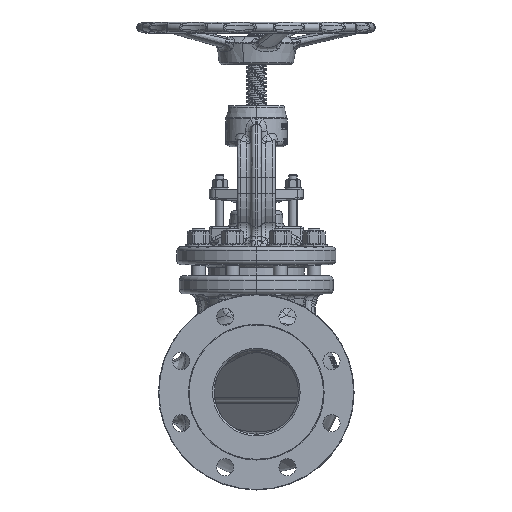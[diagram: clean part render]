
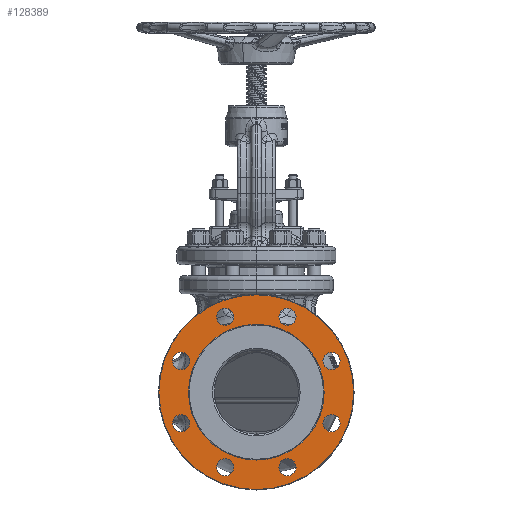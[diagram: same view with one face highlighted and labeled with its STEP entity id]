
A CAD part, left-side view. The second image highlights one B-rep face of the part: STEP entity #128389.
In plain terms, the highlighted planar face has unit normal (-1, 0, 0).
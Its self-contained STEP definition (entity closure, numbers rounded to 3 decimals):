
#44136=CARTESIAN_POINT('',(-144.4,0.,0.));
#44137=DIRECTION('',(-1.,0.,0.));
#44138=DIRECTION('',(0.,0.,-1.));
#44139=AXIS2_PLACEMENT_3D('',#44136,#44137,#44138);
#44146=CARTESIAN_POINT('',(-144.4,0.,0.));
#44147=DIRECTION('',(-1.,0.,0.));
#44148=DIRECTION('',(0.,0.,1.));
#44149=AXIS2_PLACEMENT_3D('',#44146,#44147,#44148);
#44151=CARTESIAN_POINT('',(-144.4,0.,0.));
#44152=DIRECTION('',(1.,0.,0.));
#44153=DIRECTION('',(0.,0.,1.));
#44154=AXIS2_PLACEMENT_3D('',#44151,#44152,#44153);
#44156=CARTESIAN_POINT('',(-144.4,-36.451,88.));
#44157=DIRECTION('',(1.,0.,0.));
#44158=DIRECTION('',(0.,1.,0.));
#44159=AXIS2_PLACEMENT_3D('',#44156,#44157,#44158);
#44161=CARTESIAN_POINT('',(-144.4,-36.451,88.));
#44162=DIRECTION('',(1.,0.,0.));
#44163=DIRECTION('',(0.,-1.,0.));
#44164=AXIS2_PLACEMENT_3D('',#44161,#44162,#44163);
#44166=CARTESIAN_POINT('',(-144.4,-88.,36.451));
#44167=DIRECTION('',(1.,0.,0.));
#44168=DIRECTION('',(0.,1.,0.));
#44169=AXIS2_PLACEMENT_3D('',#44166,#44167,#44168);
#44171=CARTESIAN_POINT('',(-144.4,-88.,36.451));
#44172=DIRECTION('',(1.,0.,0.));
#44173=DIRECTION('',(0.,-1.,0.));
#44174=AXIS2_PLACEMENT_3D('',#44171,#44172,#44173);
#44176=CARTESIAN_POINT('',(-144.4,-88.,-36.451));
#44177=DIRECTION('',(1.,0.,0.));
#44178=DIRECTION('',(0.,1.,0.));
#44179=AXIS2_PLACEMENT_3D('',#44176,#44177,#44178);
#44181=CARTESIAN_POINT('',(-144.4,-88.,-36.451));
#44182=DIRECTION('',(1.,0.,0.));
#44183=DIRECTION('',(0.,-1.,0.));
#44184=AXIS2_PLACEMENT_3D('',#44181,#44182,#44183);
#44186=CARTESIAN_POINT('',(-144.4,-36.451,-88.));
#44187=DIRECTION('',(1.,0.,0.));
#44188=DIRECTION('',(0.,1.,0.));
#44189=AXIS2_PLACEMENT_3D('',#44186,#44187,#44188);
#44191=CARTESIAN_POINT('',(-144.4,-36.451,-88.));
#44192=DIRECTION('',(1.,0.,0.));
#44193=DIRECTION('',(0.,-1.,0.));
#44194=AXIS2_PLACEMENT_3D('',#44191,#44192,#44193);
#44196=CARTESIAN_POINT('',(-144.4,36.451,-88.));
#44197=DIRECTION('',(1.,0.,0.));
#44198=DIRECTION('',(0.,1.,0.));
#44199=AXIS2_PLACEMENT_3D('',#44196,#44197,#44198);
#44201=CARTESIAN_POINT('',(-144.4,36.451,-88.));
#44202=DIRECTION('',(1.,0.,0.));
#44203=DIRECTION('',(0.,-1.,0.));
#44204=AXIS2_PLACEMENT_3D('',#44201,#44202,#44203);
#44206=CARTESIAN_POINT('',(-144.4,88.,-36.451));
#44207=DIRECTION('',(1.,0.,0.));
#44208=DIRECTION('',(0.,1.,0.));
#44209=AXIS2_PLACEMENT_3D('',#44206,#44207,#44208);
#44211=CARTESIAN_POINT('',(-144.4,88.,-36.451));
#44212=DIRECTION('',(1.,0.,0.));
#44213=DIRECTION('',(0.,-1.,0.));
#44214=AXIS2_PLACEMENT_3D('',#44211,#44212,#44213);
#44216=CARTESIAN_POINT('',(-144.4,88.,36.451));
#44217=DIRECTION('',(1.,0.,0.));
#44218=DIRECTION('',(0.,1.,0.));
#44219=AXIS2_PLACEMENT_3D('',#44216,#44217,#44218);
#44221=CARTESIAN_POINT('',(-144.4,88.,36.451));
#44222=DIRECTION('',(1.,0.,0.));
#44223=DIRECTION('',(0.,-1.,0.));
#44224=AXIS2_PLACEMENT_3D('',#44221,#44222,#44223);
#44226=CARTESIAN_POINT('',(-144.4,36.451,88.));
#44227=DIRECTION('',(1.,0.,0.));
#44228=DIRECTION('',(0.,1.,0.));
#44229=AXIS2_PLACEMENT_3D('',#44226,#44227,#44228);
#44231=CARTESIAN_POINT('',(-144.4,36.451,88.));
#44232=DIRECTION('',(1.,0.,0.));
#44233=DIRECTION('',(0.,-1.,0.));
#44234=AXIS2_PLACEMENT_3D('',#44231,#44232,#44233);
#44236=CARTESIAN_POINT('',(-144.4,0.,0.));
#44237=DIRECTION('',(-1.,0.,0.));
#44238=DIRECTION('',(0.,0.,1.));
#44239=AXIS2_PLACEMENT_3D('',#44236,#44237,#44238);
#66859=CARTESIAN_POINT('',(-144.4,-46.451,88.));
#66860=VERTEX_POINT('',#66859);
#66861=CARTESIAN_POINT('',(-144.4,-26.451,88.));
#66862=VERTEX_POINT('',#66861);
#66867=CARTESIAN_POINT('',(-144.4,-98.,36.451));
#66868=VERTEX_POINT('',#66867);
#66869=CARTESIAN_POINT('',(-144.4,-78.,36.451));
#66870=VERTEX_POINT('',#66869);
#66875=CARTESIAN_POINT('',(-144.4,-98.,-36.451));
#66876=VERTEX_POINT('',#66875);
#66877=CARTESIAN_POINT('',(-144.4,-78.,-36.451));
#66878=VERTEX_POINT('',#66877);
#66883=CARTESIAN_POINT('',(-144.4,-46.451,-88.));
#66884=VERTEX_POINT('',#66883);
#66885=CARTESIAN_POINT('',(-144.4,-26.451,-88.));
#66886=VERTEX_POINT('',#66885);
#66891=CARTESIAN_POINT('',(-144.4,26.451,-88.));
#66892=VERTEX_POINT('',#66891);
#66893=CARTESIAN_POINT('',(-144.4,46.451,-88.));
#66894=VERTEX_POINT('',#66893);
#66899=CARTESIAN_POINT('',(-144.4,78.,-36.451));
#66900=VERTEX_POINT('',#66899);
#66901=CARTESIAN_POINT('',(-144.4,98.,-36.451));
#66902=VERTEX_POINT('',#66901);
#66907=CARTESIAN_POINT('',(-144.4,78.,36.451));
#66908=VERTEX_POINT('',#66907);
#66909=CARTESIAN_POINT('',(-144.4,98.,36.451));
#66910=VERTEX_POINT('',#66909);
#66915=CARTESIAN_POINT('',(-144.4,26.451,88.));
#66916=VERTEX_POINT('',#66915);
#66917=CARTESIAN_POINT('',(-144.4,46.451,88.));
#66918=VERTEX_POINT('',#66917);
#68240=CARTESIAN_POINT('',(-144.4,0.,-113.987));
#68241=CARTESIAN_POINT('',(-144.4,0.,113.987));
#68242=VERTEX_POINT('',#68240);
#68243=VERTEX_POINT('',#68241);
#68756=CARTESIAN_POINT('',(-144.4,0.,79.4));
#68757=VERTEX_POINT('',#68756);
#68760=CARTESIAN_POINT('',(-144.4,0.,-79.4));
#68761=VERTEX_POINT('',#68760);
#128325=CARTESIAN_POINT('',(-144.4,0.,0.));
#128326=DIRECTION('',(-1.,0.,0.));
#128327=DIRECTION('',(0.,0.,1.));
#128328=AXIS2_PLACEMENT_3D('',#128325,#128326,#128327);
#128329=PLANE('',#128328);
#128330=ORIENTED_EDGE('',*,*,#128315,.F.);
#128332=ORIENTED_EDGE('',*,*,#128331,.F.);
#128333=EDGE_LOOP('',(#128330,#128332));
#128334=FACE_OUTER_BOUND('',#128333,.F.);
#128336=ORIENTED_EDGE('',*,*,#128335,.T.);
#128338=ORIENTED_EDGE('',*,*,#128337,.F.);
#128339=EDGE_LOOP('',(#128336,#128338));
#128340=FACE_BOUND('',#128339,.F.);
#128342=ORIENTED_EDGE('',*,*,#128341,.F.);
#128344=ORIENTED_EDGE('',*,*,#128343,.F.);
#128345=EDGE_LOOP('',(#128342,#128344));
#128346=FACE_BOUND('',#128345,.F.);
#128348=ORIENTED_EDGE('',*,*,#128347,.F.);
#128350=ORIENTED_EDGE('',*,*,#128349,.F.);
#128351=EDGE_LOOP('',(#128348,#128350));
#128352=FACE_BOUND('',#128351,.F.);
#128354=ORIENTED_EDGE('',*,*,#128353,.F.);
#128356=ORIENTED_EDGE('',*,*,#128355,.F.);
#128357=EDGE_LOOP('',(#128354,#128356));
#128358=FACE_BOUND('',#128357,.F.);
#128360=ORIENTED_EDGE('',*,*,#128359,.F.);
#128362=ORIENTED_EDGE('',*,*,#128361,.F.);
#128363=EDGE_LOOP('',(#128360,#128362));
#128364=FACE_BOUND('',#128363,.F.);
#128366=ORIENTED_EDGE('',*,*,#128365,.F.);
#128368=ORIENTED_EDGE('',*,*,#128367,.F.);
#128369=EDGE_LOOP('',(#128366,#128368));
#128370=FACE_BOUND('',#128369,.F.);
#128372=ORIENTED_EDGE('',*,*,#128371,.F.);
#128374=ORIENTED_EDGE('',*,*,#128373,.F.);
#128375=EDGE_LOOP('',(#128372,#128374));
#128376=FACE_BOUND('',#128375,.F.);
#128378=ORIENTED_EDGE('',*,*,#128377,.F.);
#128380=ORIENTED_EDGE('',*,*,#128379,.F.);
#128381=EDGE_LOOP('',(#128378,#128380));
#128382=FACE_BOUND('',#128381,.F.);
#128384=ORIENTED_EDGE('',*,*,#128383,.F.);
#128386=ORIENTED_EDGE('',*,*,#128385,.F.);
#128387=EDGE_LOOP('',(#128384,#128386));
#128388=FACE_BOUND('',#128387,.F.);
#128389=ADVANCED_FACE('',(#128334,#128340,#128346,#128352,#128358,#128364,
#128370,#128376,#128382,#128388),#128329,.T.);
#44140=CIRCLE('',#44139,113.987);
#44150=CIRCLE('',#44149,79.4);
#44155=CIRCLE('',#44154,79.4);
#44160=CIRCLE('',#44159,10.);
#44165=CIRCLE('',#44164,10.);
#44170=CIRCLE('',#44169,10.);
#44175=CIRCLE('',#44174,10.);
#44180=CIRCLE('',#44179,10.);
#44185=CIRCLE('',#44184,10.);
#44190=CIRCLE('',#44189,10.);
#44195=CIRCLE('',#44194,10.);
#44200=CIRCLE('',#44199,10.);
#44205=CIRCLE('',#44204,10.);
#44210=CIRCLE('',#44209,10.);
#44215=CIRCLE('',#44214,10.);
#44220=CIRCLE('',#44219,10.);
#44225=CIRCLE('',#44224,10.);
#44230=CIRCLE('',#44229,10.);
#44235=CIRCLE('',#44234,10.);
#44240=CIRCLE('',#44239,113.987);
#128315=EDGE_CURVE('',#68242,#68243,#44140,.T.);
#128331=EDGE_CURVE('',#68243,#68242,#44240,.T.);
#128335=EDGE_CURVE('',#68757,#68761,#44150,.T.);
#128337=EDGE_CURVE('',#68757,#68761,#44155,.T.);
#128341=EDGE_CURVE('',#66862,#66860,#44160,.T.);
#128343=EDGE_CURVE('',#66860,#66862,#44165,.T.);
#128347=EDGE_CURVE('',#66870,#66868,#44170,.T.);
#128349=EDGE_CURVE('',#66868,#66870,#44175,.T.);
#128353=EDGE_CURVE('',#66878,#66876,#44180,.T.);
#128355=EDGE_CURVE('',#66876,#66878,#44185,.T.);
#128359=EDGE_CURVE('',#66886,#66884,#44190,.T.);
#128361=EDGE_CURVE('',#66884,#66886,#44195,.T.);
#128365=EDGE_CURVE('',#66894,#66892,#44200,.T.);
#128367=EDGE_CURVE('',#66892,#66894,#44205,.T.);
#128371=EDGE_CURVE('',#66902,#66900,#44210,.T.);
#128373=EDGE_CURVE('',#66900,#66902,#44215,.T.);
#128377=EDGE_CURVE('',#66910,#66908,#44220,.T.);
#128379=EDGE_CURVE('',#66908,#66910,#44225,.T.);
#128383=EDGE_CURVE('',#66918,#66916,#44230,.T.);
#128385=EDGE_CURVE('',#66916,#66918,#44235,.T.);
